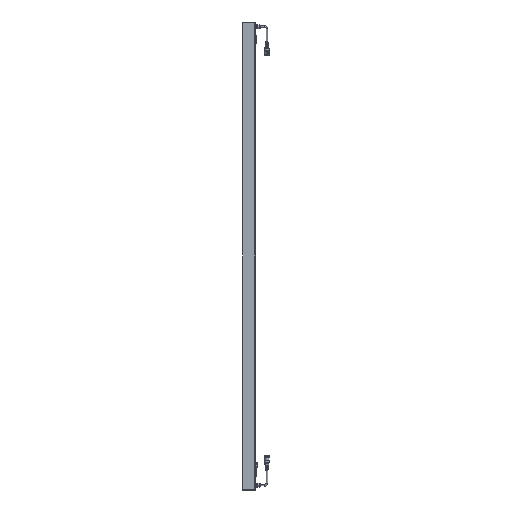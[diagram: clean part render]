
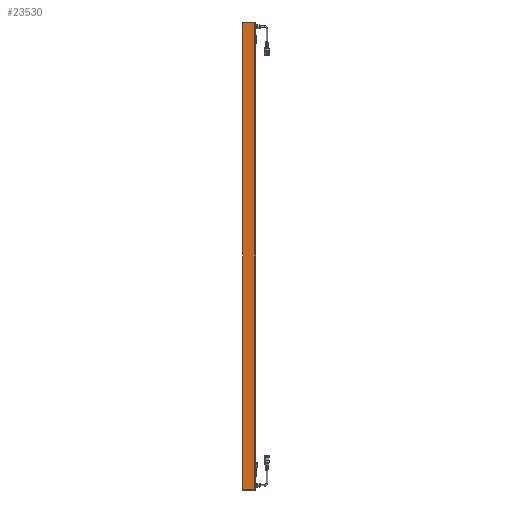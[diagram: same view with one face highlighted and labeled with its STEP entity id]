
A CAD part, left-side view. The second image highlights one B-rep face of the part: STEP entity #23530.
In plain terms, the highlighted planar face has unit normal (-1, 0, 0).
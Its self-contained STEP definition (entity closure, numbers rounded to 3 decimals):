
#1186=PLANE('',#35204);
#2618=LINE('',#52310,#4315);
#2634=LINE('',#52353,#4331);
#2635=LINE('',#52357,#4332);
#2636=LINE('',#52358,#4333);
#4315=VECTOR('',#40545,1000.);
#4331=VECTOR('',#40585,1000.);
#4332=VECTOR('',#40590,1000.);
#4333=VECTOR('',#40591,1000.);
#8825=ORIENTED_EDGE('',*,*,#13751,.T.);
#8826=ORIENTED_EDGE('',*,*,#13728,.F.);
#8827=ORIENTED_EDGE('',*,*,#13752,.F.);
#8828=ORIENTED_EDGE('',*,*,#13749,.T.);
#13728=EDGE_CURVE('',#16399,#16396,#2618,.T.);
#13749=EDGE_CURVE('',#16415,#16414,#2634,.T.);
#13751=EDGE_CURVE('',#16414,#16396,#2635,.T.);
#13752=EDGE_CURVE('',#16415,#16399,#2636,.T.);
#16396=VERTEX_POINT('',#52304);
#16399=VERTEX_POINT('',#52309);
#16414=VERTEX_POINT('',#52352);
#16415=VERTEX_POINT('',#52354);
#19600=EDGE_LOOP('',(#8825,#8826,#8827,#8828));
#21373=FACE_BOUND('',#19600,.T.);
#23530=ADVANCED_FACE('',(#21373),#1186,.F.);
#35204=AXIS2_PLACEMENT_3D('',#52356,#40588,#40589);
#40545=DIRECTION('',(0.,0.,1.));
#40585=DIRECTION('',(0.,0.,1.));
#40588=DIRECTION('',(1.,0.,0.));
#40589=DIRECTION('',(0.,-1.,0.));
#40590=DIRECTION('',(0.,1.,0.));
#40591=DIRECTION('',(0.,1.,0.));
#52304=CARTESIAN_POINT('',(-11.988,73.971,723.124));
#52309=CARTESIAN_POINT('',(-11.988,73.971,-723.128));
#52310=CARTESIAN_POINT('',(-11.988,73.971,-723.128));
#52352=CARTESIAN_POINT('',(-11.988,38.103,723.124));
#52353=CARTESIAN_POINT('',(-11.988,38.103,-723.128));
#52354=CARTESIAN_POINT('',(-11.988,38.103,-723.128));
#52356=CARTESIAN_POINT('',(-11.988,38.103,-723.128));
#52357=CARTESIAN_POINT('',(-11.988,38.103,723.124));
#52358=CARTESIAN_POINT('',(-11.988,38.103,-723.128));
